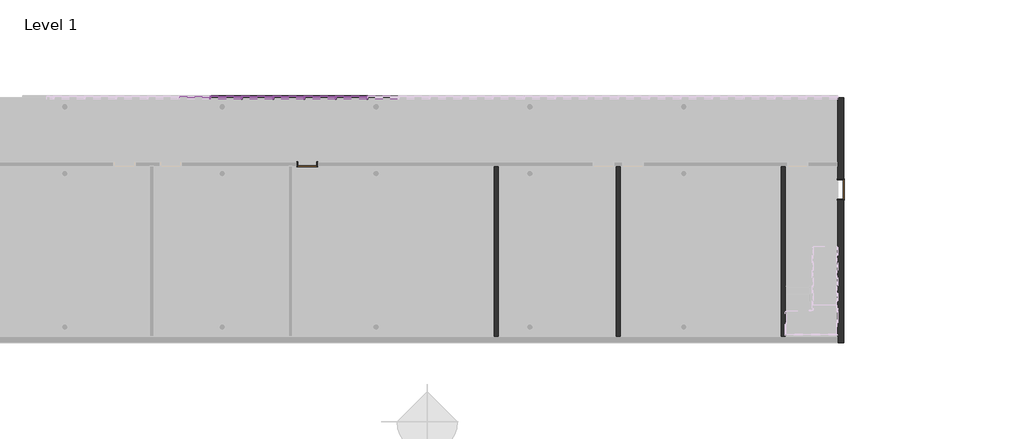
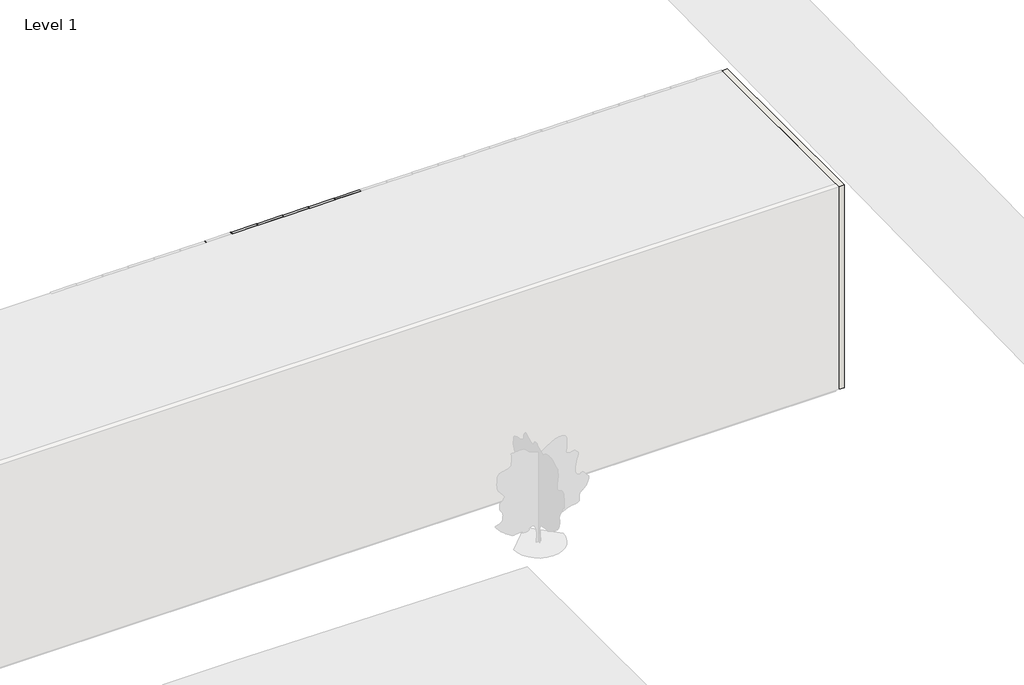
# One storey, part 6 of 23: 84 members, 40 plates, 4 walls, 2 doors.
"""IFC4 building model written with IfcOpenShell, lengths in millimetres."""

from ifc_helpers import new_model, si_unit, origin, origin_with_axes, place, context, project, spatial, polyline, outline, extrude, faceted_brep, transform, mapped, element, save
from components import door_0915mm_x_2134mm_3fa07aa3, door_0915mm_x_2134mm_b19b82af, rectangular_mullion_50mm_x_150mm_5f185edf, rectangular_mullion_50mm_x_150mm_e13fe9f0, rectangular_mullion_50mm_x_150mm_bbc1c4ea, rectangular_mullion_50mm_x_150mm_36202a7c, rectangular_mullion_50mm_x_150mm_84717ec5, system_panel_glazed_65478968, system_panel_glazed_4c130a31, system_panel_solid_368a6b70, system_panel_solid_ece33ae8

model = new_model("IFC4")

# Units and contexts
model_context = context("Model", 3, world=origin())
ifc_project = project(units=[si_unit("LENGTHUNIT", "METRE", prefix="MILLI")], contexts=[model_context])

# Site, building, storey
site = spatial("IfcSite", under=ifc_project)
building = spatial("IfcBuilding", under=site)
storey = spatial("IfcBuildingStorey", under=building, Name="Level 1", Elevation=0.0)

# Doors
placement = place(None, origin())
door_0915mm_x_2134mm_shape = door_0915mm_x_2134mm_3fa07aa3(model_context)
element("IfcDoor", 1, ObjectType="m-doors-hm-f1-a : 0915mm x 2134mm", at=placement, inside=storey, context=model_context, shape_type="MappedRepresentation", body=[
    mapped(door_0915mm_x_2134mm_shape, transform((31461.1968037, -15479.7006057, 0.0), x_axis=(1.0, 0.0, 0.0), y_axis=(0.0, 1.0, 0.0), z_axis=(0.0, 0.0, 1.0))),
])
door_0915mm_x_2134mm_2_shape = door_0915mm_x_2134mm_b19b82af(model_context)
element("IfcDoor", 2, ObjectType="m-doors-hm-f1-a : 0915mm x 2134mm", at=placement, inside=storey, context=model_context, shape_type="MappedRepresentation", body=[
    mapped(door_0915mm_x_2134mm_2_shape, transform((57025.1173382, -16504.7006057, 0.0), x_axis=(0.0, -1.0, 0.0), y_axis=(1.0, 0.0, 0.0), z_axis=(0.0, 0.0, 1.0))),
])

# Members
rectangular_mullion_50mm_x_150mm_shape = rectangular_mullion_50mm_x_150mm_5f185edf(model_context)
element("IfcMember", 3, ObjectType="Rectangular Mullion : 50mm x 150mm", at=placement, inside=storey, context=model_context, shape_type="MappedRepresentation", body=[
    mapped(rectangular_mullion_50mm_x_150mm_shape, transform((34337.0190355, -12132.3615692, 12400.0), x_axis=(0.0, 0.0, 1.0), y_axis=(0.0, 1.0, 0.0), z_axis=(-1.0, 0.0, 0.0))),
])
element("IfcMember", 4, ObjectType="Rectangular Mullion : 50mm x 150mm", at=placement, inside=storey, context=model_context, shape_type="MappedRepresentation", body=[
    mapped(rectangular_mullion_50mm_x_150mm_shape, transform((32844.5458154, -12132.3615692, 12400.0), x_axis=(0.0, 0.0, 1.0), y_axis=(0.0, 1.0, 0.0), z_axis=(-1.0, 0.0, 0.0))),
])
element("IfcMember", 5, ObjectType="Rectangular Mullion : 50mm x 150mm", at=placement, inside=storey, context=model_context, shape_type="MappedRepresentation", body=[
    mapped(rectangular_mullion_50mm_x_150mm_shape, transform((31352.0725952, -12132.3615692, 12400.0), x_axis=(0.0, 0.0, 1.0), y_axis=(0.0, 1.0, 0.0), z_axis=(-1.0, 0.0, 0.0))),
])
element("IfcMember", 6, ObjectType="Rectangular Mullion : 50mm x 150mm", at=placement, inside=storey, context=model_context, shape_type="MappedRepresentation", body=[
    mapped(rectangular_mullion_50mm_x_150mm_shape, transform((29859.599375, -12132.3615692, 12400.0), x_axis=(0.0, 0.0, 1.0), y_axis=(0.0, 1.0, 0.0), z_axis=(-1.0, 0.0, 0.0))),
])
element("IfcMember", 7, ObjectType="Rectangular Mullion : 50mm x 150mm", at=placement, inside=storey, context=model_context, shape_type="MappedRepresentation", body=[
    mapped(rectangular_mullion_50mm_x_150mm_shape, transform((28367.1261549, -12132.3615692, 12400.0), x_axis=(0.0, 0.0, 1.0), y_axis=(0.0, 1.0, 0.0), z_axis=(-1.0, 0.0, 0.0))),
])
element("IfcMember", 8, ObjectType="Rectangular Mullion : 50mm x 150mm", at=placement, inside=storey, context=model_context, shape_type="MappedRepresentation", body=[
    mapped(rectangular_mullion_50mm_x_150mm_shape, transform((34287.0190355, -12132.3615692, 0.0), x_axis=(0.0, 0.0, -1.0), y_axis=(0.0, 1.0, 0.0), z_axis=(1.0, 0.0, 0.0))),
])
element("IfcMember", 9, ObjectType="Rectangular Mullion : 50mm x 150mm", at=placement, inside=storey, context=model_context, shape_type="MappedRepresentation", body=[
    mapped(rectangular_mullion_50mm_x_150mm_shape, transform((32794.5458154, -12132.3615692, 0.0), x_axis=(0.0, 0.0, -1.0), y_axis=(0.0, 1.0, 0.0), z_axis=(1.0, 0.0, 0.0))),
])
element("IfcMember", 10, ObjectType="Rectangular Mullion : 50mm x 150mm", at=placement, inside=storey, context=model_context, shape_type="MappedRepresentation", body=[
    mapped(rectangular_mullion_50mm_x_150mm_shape, transform((31302.0725952, -12132.3615692, 0.0), x_axis=(0.0, 0.0, -1.0), y_axis=(0.0, 1.0, 0.0), z_axis=(1.0, 0.0, 0.0))),
])
element("IfcMember", 11, ObjectType="Rectangular Mullion : 50mm x 150mm", at=placement, inside=storey, context=model_context, shape_type="MappedRepresentation", body=[
    mapped(rectangular_mullion_50mm_x_150mm_shape, transform((29809.599375, -12132.3615692, 0.0), x_axis=(0.0, 0.0, -1.0), y_axis=(0.0, 1.0, 0.0), z_axis=(1.0, 0.0, 0.0))),
])
element("IfcMember", 12, ObjectType="Rectangular Mullion : 50mm x 150mm", at=placement, inside=storey, context=model_context, shape_type="MappedRepresentation", body=[
    mapped(rectangular_mullion_50mm_x_150mm_shape, transform((28317.1261549, -12132.3615692, 0.0), x_axis=(0.0, 0.0, -1.0), y_axis=(0.0, 1.0, 0.0), z_axis=(1.0, 0.0, 0.0))),
])
rectangular_mullion_50mm_x_150mm_2_shape = rectangular_mullion_50mm_x_150mm_e13fe9f0(model_context)
element("IfcMember", 13, ObjectType="Rectangular Mullion : 50mm x 150mm", at=placement, inside=storey, context=model_context, shape_type="MappedRepresentation", body=[
    mapped(rectangular_mullion_50mm_x_150mm_2_shape, transform((34337.0190355, -12132.3615692, 3800.0), x_axis=(0.0, 0.0, 1.0), y_axis=(0.0, 1.0, 0.0), z_axis=(-1.0, 0.0, 0.0))),
])
element("IfcMember", 14, ObjectType="Rectangular Mullion : 50mm x 150mm", at=placement, inside=storey, context=model_context, shape_type="MappedRepresentation", body=[
    mapped(rectangular_mullion_50mm_x_150mm_2_shape, transform((32844.5458154, -12132.3615692, 3800.0), x_axis=(0.0, 0.0, 1.0), y_axis=(0.0, 1.0, 0.0), z_axis=(-1.0, 0.0, 0.0))),
])
element("IfcMember", 15, ObjectType="Rectangular Mullion : 50mm x 150mm", at=placement, inside=storey, context=model_context, shape_type="MappedRepresentation", body=[
    mapped(rectangular_mullion_50mm_x_150mm_2_shape, transform((31352.0725952, -12132.3615692, 3800.0), x_axis=(0.0, 0.0, 1.0), y_axis=(0.0, 1.0, 0.0), z_axis=(-1.0, 0.0, 0.0))),
])
element("IfcMember", 16, ObjectType="Rectangular Mullion : 50mm x 150mm", at=placement, inside=storey, context=model_context, shape_type="MappedRepresentation", body=[
    mapped(rectangular_mullion_50mm_x_150mm_2_shape, transform((29859.599375, -12132.3615692, 3800.0), x_axis=(0.0, 0.0, 1.0), y_axis=(0.0, 1.0, 0.0), z_axis=(-1.0, 0.0, 0.0))),
])
element("IfcMember", 17, ObjectType="Rectangular Mullion : 50mm x 150mm", at=placement, inside=storey, context=model_context, shape_type="MappedRepresentation", body=[
    mapped(rectangular_mullion_50mm_x_150mm_2_shape, transform((28367.1261549, -12132.3615692, 3800.0), x_axis=(0.0, 0.0, 1.0), y_axis=(0.0, 1.0, 0.0), z_axis=(-1.0, 0.0, 0.0))),
])
element("IfcMember", 18, ObjectType="Rectangular Mullion : 50mm x 150mm", at=placement, inside=storey, context=model_context, shape_type="MappedRepresentation", body=[
    mapped(rectangular_mullion_50mm_x_150mm_2_shape, transform((34337.0190355, -12132.3615692, 7600.0), x_axis=(0.0, 0.0, 1.0), y_axis=(0.0, 1.0, 0.0), z_axis=(-1.0, 0.0, 0.0))),
])
element("IfcMember", 19, ObjectType="Rectangular Mullion : 50mm x 150mm", at=placement, inside=storey, context=model_context, shape_type="MappedRepresentation", body=[
    mapped(rectangular_mullion_50mm_x_150mm_2_shape, transform((32844.5458154, -12132.3615692, 7600.0), x_axis=(0.0, 0.0, 1.0), y_axis=(0.0, 1.0, 0.0), z_axis=(-1.0, 0.0, 0.0))),
])
element("IfcMember", 20, ObjectType="Rectangular Mullion : 50mm x 150mm", at=placement, inside=storey, context=model_context, shape_type="MappedRepresentation", body=[
    mapped(rectangular_mullion_50mm_x_150mm_2_shape, transform((31352.0725952, -12132.3615692, 7600.0), x_axis=(0.0, 0.0, 1.0), y_axis=(0.0, 1.0, 0.0), z_axis=(-1.0, 0.0, 0.0))),
])
element("IfcMember", 21, ObjectType="Rectangular Mullion : 50mm x 150mm", at=placement, inside=storey, context=model_context, shape_type="MappedRepresentation", body=[
    mapped(rectangular_mullion_50mm_x_150mm_2_shape, transform((29859.599375, -12132.3615692, 7600.0), x_axis=(0.0, 0.0, 1.0), y_axis=(0.0, 1.0, 0.0), z_axis=(-1.0, 0.0, 0.0))),
])
element("IfcMember", 22, ObjectType="Rectangular Mullion : 50mm x 150mm", at=placement, inside=storey, context=model_context, shape_type="MappedRepresentation", body=[
    mapped(rectangular_mullion_50mm_x_150mm_2_shape, transform((28367.1261549, -12132.3615692, 7600.0), x_axis=(0.0, 0.0, 1.0), y_axis=(0.0, 1.0, 0.0), z_axis=(-1.0, 0.0, 0.0))),
])
element("IfcMember", 23, ObjectType="Rectangular Mullion : 50mm x 150mm", at=placement, inside=storey, context=model_context, shape_type="MappedRepresentation", body=[
    mapped(rectangular_mullion_50mm_x_150mm_2_shape, transform((34337.0190355, -12132.3615692, 11400.0), x_axis=(0.0, 0.0, 1.0), y_axis=(0.0, 1.0, 0.0), z_axis=(-1.0, 0.0, 0.0))),
])
element("IfcMember", 24, ObjectType="Rectangular Mullion : 50mm x 150mm", at=placement, inside=storey, context=model_context, shape_type="MappedRepresentation", body=[
    mapped(rectangular_mullion_50mm_x_150mm_2_shape, transform((32844.5458154, -12132.3615692, 11400.0), x_axis=(0.0, 0.0, 1.0), y_axis=(0.0, 1.0, 0.0), z_axis=(-1.0, 0.0, 0.0))),
])
element("IfcMember", 25, ObjectType="Rectangular Mullion : 50mm x 150mm", at=placement, inside=storey, context=model_context, shape_type="MappedRepresentation", body=[
    mapped(rectangular_mullion_50mm_x_150mm_2_shape, transform((31352.0725952, -12132.3615692, 11400.0), x_axis=(0.0, 0.0, 1.0), y_axis=(0.0, 1.0, 0.0), z_axis=(-1.0, 0.0, 0.0))),
])
element("IfcMember", 26, ObjectType="Rectangular Mullion : 50mm x 150mm", at=placement, inside=storey, context=model_context, shape_type="MappedRepresentation", body=[
    mapped(rectangular_mullion_50mm_x_150mm_2_shape, transform((29859.599375, -12132.3615692, 11400.0), x_axis=(0.0, 0.0, 1.0), y_axis=(0.0, 1.0, 0.0), z_axis=(-1.0, 0.0, 0.0))),
])
element("IfcMember", 27, ObjectType="Rectangular Mullion : 50mm x 150mm", at=placement, inside=storey, context=model_context, shape_type="MappedRepresentation", body=[
    mapped(rectangular_mullion_50mm_x_150mm_2_shape, transform((28367.1261549, -12132.3615692, 11400.0), x_axis=(0.0, 0.0, 1.0), y_axis=(0.0, 1.0, 0.0), z_axis=(-1.0, 0.0, 0.0))),
])
element("IfcMember", 28, ObjectType="Rectangular Mullion : 50mm x 150mm", at=placement, inside=storey, context=model_context, shape_type="MappedRepresentation", body=[
    mapped(rectangular_mullion_50mm_x_150mm_2_shape, transform((34337.0190355, -12132.3615692, 2440.0), x_axis=(0.0, 0.0, 1.0), y_axis=(0.0, 1.0, 0.0), z_axis=(-1.0, 0.0, 0.0))),
])
element("IfcMember", 29, ObjectType="Rectangular Mullion : 50mm x 150mm", at=placement, inside=storey, context=model_context, shape_type="MappedRepresentation", body=[
    mapped(rectangular_mullion_50mm_x_150mm_2_shape, transform((32844.5458154, -12132.3615692, 2440.0), x_axis=(0.0, 0.0, 1.0), y_axis=(0.0, 1.0, 0.0), z_axis=(-1.0, 0.0, 0.0))),
])
element("IfcMember", 30, ObjectType="Rectangular Mullion : 50mm x 150mm", at=placement, inside=storey, context=model_context, shape_type="MappedRepresentation", body=[
    mapped(rectangular_mullion_50mm_x_150mm_2_shape, transform((31352.0725952, -12132.3615692, 2440.0), x_axis=(0.0, 0.0, 1.0), y_axis=(0.0, 1.0, 0.0), z_axis=(-1.0, 0.0, 0.0))),
])
element("IfcMember", 31, ObjectType="Rectangular Mullion : 50mm x 150mm", at=placement, inside=storey, context=model_context, shape_type="MappedRepresentation", body=[
    mapped(rectangular_mullion_50mm_x_150mm_2_shape, transform((29859.599375, -12132.3615692, 2440.0), x_axis=(0.0, 0.0, 1.0), y_axis=(0.0, 1.0, 0.0), z_axis=(-1.0, 0.0, 0.0))),
])
element("IfcMember", 32, ObjectType="Rectangular Mullion : 50mm x 150mm", at=placement, inside=storey, context=model_context, shape_type="MappedRepresentation", body=[
    mapped(rectangular_mullion_50mm_x_150mm_2_shape, transform((28367.1261549, -12132.3615692, 2440.0), x_axis=(0.0, 0.0, 1.0), y_axis=(0.0, 1.0, 0.0), z_axis=(-1.0, 0.0, 0.0))),
])
element("IfcMember", 33, ObjectType="Rectangular Mullion : 50mm x 150mm", at=placement, inside=storey, context=model_context, shape_type="MappedRepresentation", body=[
    mapped(rectangular_mullion_50mm_x_150mm_2_shape, transform((26874.6529347, -12132.3615692, 2440.0), x_axis=(0.0, 0.0, 1.0), y_axis=(0.0, 1.0, 0.0), z_axis=(-1.0, 0.0, 0.0))),
])
element("IfcMember", 34, ObjectType="Rectangular Mullion : 50mm x 150mm", at=placement, inside=storey, context=model_context, shape_type="MappedRepresentation", body=[
    mapped(rectangular_mullion_50mm_x_150mm_2_shape, transform((34337.0190355, -12132.3615692, 6240.0), x_axis=(0.0, 0.0, 1.0), y_axis=(0.0, 1.0, 0.0), z_axis=(-1.0, 0.0, 0.0))),
])
element("IfcMember", 35, ObjectType="Rectangular Mullion : 50mm x 150mm", at=placement, inside=storey, context=model_context, shape_type="MappedRepresentation", body=[
    mapped(rectangular_mullion_50mm_x_150mm_2_shape, transform((32844.5458154, -12132.3615692, 6240.0), x_axis=(0.0, 0.0, 1.0), y_axis=(0.0, 1.0, 0.0), z_axis=(-1.0, 0.0, 0.0))),
])
element("IfcMember", 36, ObjectType="Rectangular Mullion : 50mm x 150mm", at=placement, inside=storey, context=model_context, shape_type="MappedRepresentation", body=[
    mapped(rectangular_mullion_50mm_x_150mm_2_shape, transform((31352.0725952, -12132.3615692, 6240.0), x_axis=(0.0, 0.0, 1.0), y_axis=(0.0, 1.0, 0.0), z_axis=(-1.0, 0.0, 0.0))),
])
element("IfcMember", 37, ObjectType="Rectangular Mullion : 50mm x 150mm", at=placement, inside=storey, context=model_context, shape_type="MappedRepresentation", body=[
    mapped(rectangular_mullion_50mm_x_150mm_2_shape, transform((29859.599375, -12132.3615692, 6240.0), x_axis=(0.0, 0.0, 1.0), y_axis=(0.0, 1.0, 0.0), z_axis=(-1.0, 0.0, 0.0))),
])
element("IfcMember", 38, ObjectType="Rectangular Mullion : 50mm x 150mm", at=placement, inside=storey, context=model_context, shape_type="MappedRepresentation", body=[
    mapped(rectangular_mullion_50mm_x_150mm_2_shape, transform((28367.1261549, -12132.3615692, 6240.0), x_axis=(0.0, 0.0, 1.0), y_axis=(0.0, 1.0, 0.0), z_axis=(-1.0, 0.0, 0.0))),
])
element("IfcMember", 39, ObjectType="Rectangular Mullion : 50mm x 150mm", at=placement, inside=storey, context=model_context, shape_type="MappedRepresentation", body=[
    mapped(rectangular_mullion_50mm_x_150mm_2_shape, transform((26874.6529347, -12132.3615692, 6240.0), x_axis=(0.0, 0.0, 1.0), y_axis=(0.0, 1.0, 0.0), z_axis=(-1.0, 0.0, 0.0))),
])
element("IfcMember", 40, ObjectType="Rectangular Mullion : 50mm x 150mm", at=placement, inside=storey, context=model_context, shape_type="MappedRepresentation", body=[
    mapped(rectangular_mullion_50mm_x_150mm_2_shape, transform((34337.0190355, -12132.3615692, 10040.0), x_axis=(0.0, 0.0, 1.0), y_axis=(0.0, 1.0, 0.0), z_axis=(-1.0, 0.0, 0.0))),
])
element("IfcMember", 41, ObjectType="Rectangular Mullion : 50mm x 150mm", at=placement, inside=storey, context=model_context, shape_type="MappedRepresentation", body=[
    mapped(rectangular_mullion_50mm_x_150mm_2_shape, transform((32844.5458154, -12132.3615692, 10040.0), x_axis=(0.0, 0.0, 1.0), y_axis=(0.0, 1.0, 0.0), z_axis=(-1.0, 0.0, 0.0))),
])
element("IfcMember", 42, ObjectType="Rectangular Mullion : 50mm x 150mm", at=placement, inside=storey, context=model_context, shape_type="MappedRepresentation", body=[
    mapped(rectangular_mullion_50mm_x_150mm_2_shape, transform((31352.0725952, -12132.3615692, 10040.0), x_axis=(0.0, 0.0, 1.0), y_axis=(0.0, 1.0, 0.0), z_axis=(-1.0, 0.0, 0.0))),
])
element("IfcMember", 43, ObjectType="Rectangular Mullion : 50mm x 150mm", at=placement, inside=storey, context=model_context, shape_type="MappedRepresentation", body=[
    mapped(rectangular_mullion_50mm_x_150mm_2_shape, transform((29859.599375, -12132.3615692, 10040.0), x_axis=(0.0, 0.0, 1.0), y_axis=(0.0, 1.0, 0.0), z_axis=(-1.0, 0.0, 0.0))),
])
element("IfcMember", 44, ObjectType="Rectangular Mullion : 50mm x 150mm", at=placement, inside=storey, context=model_context, shape_type="MappedRepresentation", body=[
    mapped(rectangular_mullion_50mm_x_150mm_2_shape, transform((28367.1261549, -12132.3615692, 10040.0), x_axis=(0.0, 0.0, 1.0), y_axis=(0.0, 1.0, 0.0), z_axis=(-1.0, 0.0, 0.0))),
])
element("IfcMember", 45, ObjectType="Rectangular Mullion : 50mm x 150mm", at=placement, inside=storey, context=model_context, shape_type="MappedRepresentation", body=[
    mapped(rectangular_mullion_50mm_x_150mm_2_shape, transform((26874.6529347, -12132.3615692, 10040.0), x_axis=(0.0, 0.0, 1.0), y_axis=(0.0, 1.0, 0.0), z_axis=(-1.0, 0.0, 0.0))),
])
rectangular_mullion_50mm_x_150mm_3_shape = rectangular_mullion_50mm_x_150mm_bbc1c4ea(model_context)
element("IfcMember", 46, ObjectType="Rectangular Mullion : 50mm x 150mm", at=placement, inside=storey, context=model_context, shape_type="MappedRepresentation", body=[
    mapped(rectangular_mullion_50mm_x_150mm_3_shape, transform((34312.0190355, -12132.3615692, 11400.0), x_axis=(-1.0, 0.0, 0.0), y_axis=(0.0, 1.0, 0.0), z_axis=(0.0, 0.0, -1.0))),
])
element("IfcMember", 47, ObjectType="Rectangular Mullion : 50mm x 150mm", at=placement, inside=storey, context=model_context, shape_type="MappedRepresentation", body=[
    mapped(rectangular_mullion_50mm_x_150mm_3_shape, transform((32819.5458154, -12132.3615692, 11400.0), x_axis=(-1.0, 0.0, 0.0), y_axis=(0.0, 1.0, 0.0), z_axis=(0.0, 0.0, -1.0))),
])
element("IfcMember", 48, ObjectType="Rectangular Mullion : 50mm x 150mm", at=placement, inside=storey, context=model_context, shape_type="MappedRepresentation", body=[
    mapped(rectangular_mullion_50mm_x_150mm_3_shape, transform((31327.0725952, -12132.3615692, 11400.0), x_axis=(-1.0, 0.0, 0.0), y_axis=(0.0, 1.0, 0.0), z_axis=(0.0, 0.0, -1.0))),
])
element("IfcMember", 49, ObjectType="Rectangular Mullion : 50mm x 150mm", at=placement, inside=storey, context=model_context, shape_type="MappedRepresentation", body=[
    mapped(rectangular_mullion_50mm_x_150mm_3_shape, transform((29834.599375, -12132.3615692, 11400.0), x_axis=(-1.0, 0.0, 0.0), y_axis=(0.0, 1.0, 0.0), z_axis=(0.0, 0.0, -1.0))),
])
element("IfcMember", 50, ObjectType="Rectangular Mullion : 50mm x 150mm", at=placement, inside=storey, context=model_context, shape_type="MappedRepresentation", body=[
    mapped(rectangular_mullion_50mm_x_150mm_3_shape, transform((28342.1261549, -12132.3615692, 11400.0), x_axis=(-1.0, 0.0, 0.0), y_axis=(0.0, 1.0, 0.0), z_axis=(0.0, 0.0, -1.0))),
])
element("IfcMember", 51, ObjectType="Rectangular Mullion : 50mm x 150mm", at=placement, inside=storey, context=model_context, shape_type="MappedRepresentation", body=[
    mapped(rectangular_mullion_50mm_x_150mm_3_shape, transform((26849.6529347, -12132.3615692, 11400.0), x_axis=(-1.0, 0.0, 0.0), y_axis=(0.0, 1.0, 0.0), z_axis=(0.0, 0.0, -1.0))),
])
rectangular_mullion_50mm_x_150mm_4_shape = rectangular_mullion_50mm_x_150mm_36202a7c(model_context)
element("IfcMember", 52, ObjectType="Rectangular Mullion : 50mm x 150mm", at=placement, inside=storey, context=model_context, shape_type="MappedRepresentation", body=[
    mapped(rectangular_mullion_50mm_x_150mm_4_shape, transform((34312.0190355, -12132.3615692, 0.0), x_axis=(-1.0, 0.0, 0.0), y_axis=(0.0, 1.0, 0.0), z_axis=(0.0, 0.0, -1.0))),
])
element("IfcMember", 53, ObjectType="Rectangular Mullion : 50mm x 150mm", at=placement, inside=storey, context=model_context, shape_type="MappedRepresentation", body=[
    mapped(rectangular_mullion_50mm_x_150mm_4_shape, transform((32819.5458154, -12132.3615692, 0.0), x_axis=(-1.0, 0.0, 0.0), y_axis=(0.0, 1.0, 0.0), z_axis=(0.0, 0.0, -1.0))),
])
element("IfcMember", 54, ObjectType="Rectangular Mullion : 50mm x 150mm", at=placement, inside=storey, context=model_context, shape_type="MappedRepresentation", body=[
    mapped(rectangular_mullion_50mm_x_150mm_4_shape, transform((31327.0725952, -12132.3615692, 0.0), x_axis=(-1.0, 0.0, 0.0), y_axis=(0.0, 1.0, 0.0), z_axis=(0.0, 0.0, -1.0))),
])
element("IfcMember", 55, ObjectType="Rectangular Mullion : 50mm x 150mm", at=placement, inside=storey, context=model_context, shape_type="MappedRepresentation", body=[
    mapped(rectangular_mullion_50mm_x_150mm_4_shape, transform((29834.599375, -12132.3615692, 0.0), x_axis=(-1.0, 0.0, 0.0), y_axis=(0.0, 1.0, 0.0), z_axis=(0.0, 0.0, -1.0))),
])
element("IfcMember", 56, ObjectType="Rectangular Mullion : 50mm x 150mm", at=placement, inside=storey, context=model_context, shape_type="MappedRepresentation", body=[
    mapped(rectangular_mullion_50mm_x_150mm_4_shape, transform((28342.1261549, -12132.3615692, 0.0), x_axis=(-1.0, 0.0, 0.0), y_axis=(0.0, 1.0, 0.0), z_axis=(0.0, 0.0, -1.0))),
])
rectangular_mullion_50mm_x_150mm_5_shape = rectangular_mullion_50mm_x_150mm_84717ec5(model_context)
element("IfcMember", 57, ObjectType="Rectangular Mullion : 50mm x 150mm", at=placement, inside=storey, context=model_context, shape_type="MappedRepresentation", body=[
    mapped(rectangular_mullion_50mm_x_150mm_5_shape, transform((34312.0190355, -12132.3615692, 2440.0), x_axis=(-1.0, 0.0, 0.0), y_axis=(0.0, 1.0, 0.0), z_axis=(0.0, 0.0, -1.0))),
])
element("IfcMember", 58, ObjectType="Rectangular Mullion : 50mm x 150mm", at=placement, inside=storey, context=model_context, shape_type="MappedRepresentation", body=[
    mapped(rectangular_mullion_50mm_x_150mm_5_shape, transform((32819.5458154, -12132.3615692, 2440.0), x_axis=(-1.0, 0.0, 0.0), y_axis=(0.0, 1.0, 0.0), z_axis=(0.0, 0.0, -1.0))),
])
element("IfcMember", 59, ObjectType="Rectangular Mullion : 50mm x 150mm", at=placement, inside=storey, context=model_context, shape_type="MappedRepresentation", body=[
    mapped(rectangular_mullion_50mm_x_150mm_5_shape, transform((31327.0725952, -12132.3615692, 2440.0), x_axis=(-1.0, 0.0, 0.0), y_axis=(0.0, 1.0, 0.0), z_axis=(0.0, 0.0, -1.0))),
])
element("IfcMember", 60, ObjectType="Rectangular Mullion : 50mm x 150mm", at=placement, inside=storey, context=model_context, shape_type="MappedRepresentation", body=[
    mapped(rectangular_mullion_50mm_x_150mm_5_shape, transform((29834.599375, -12132.3615692, 2440.0), x_axis=(-1.0, 0.0, 0.0), y_axis=(0.0, 1.0, 0.0), z_axis=(0.0, 0.0, -1.0))),
])
element("IfcMember", 61, ObjectType="Rectangular Mullion : 50mm x 150mm", at=placement, inside=storey, context=model_context, shape_type="MappedRepresentation", body=[
    mapped(rectangular_mullion_50mm_x_150mm_5_shape, transform((28342.1261549, -12132.3615692, 2440.0), x_axis=(-1.0, 0.0, 0.0), y_axis=(0.0, 1.0, 0.0), z_axis=(0.0, 0.0, -1.0))),
])
element("IfcMember", 62, ObjectType="Rectangular Mullion : 50mm x 150mm", at=placement, inside=storey, context=model_context, shape_type="MappedRepresentation", body=[
    mapped(rectangular_mullion_50mm_x_150mm_5_shape, transform((26849.6529347, -12132.3615692, 2440.0), x_axis=(-1.0, 0.0, 0.0), y_axis=(0.0, 1.0, 0.0), z_axis=(0.0, 0.0, -1.0))),
])
element("IfcMember", 63, ObjectType="Rectangular Mullion : 50mm x 150mm", at=placement, inside=storey, context=model_context, shape_type="MappedRepresentation", body=[
    mapped(rectangular_mullion_50mm_x_150mm_5_shape, transform((34312.0190355, -12132.3615692, 6240.0), x_axis=(-1.0, 0.0, 0.0), y_axis=(0.0, 1.0, 0.0), z_axis=(0.0, 0.0, -1.0))),
])
element("IfcMember", 64, ObjectType="Rectangular Mullion : 50mm x 150mm", at=placement, inside=storey, context=model_context, shape_type="MappedRepresentation", body=[
    mapped(rectangular_mullion_50mm_x_150mm_5_shape, transform((32819.5458154, -12132.3615692, 6240.0), x_axis=(-1.0, 0.0, 0.0), y_axis=(0.0, 1.0, 0.0), z_axis=(0.0, 0.0, -1.0))),
])
element("IfcMember", 65, ObjectType="Rectangular Mullion : 50mm x 150mm", at=placement, inside=storey, context=model_context, shape_type="MappedRepresentation", body=[
    mapped(rectangular_mullion_50mm_x_150mm_5_shape, transform((31327.0725952, -12132.3615692, 6240.0), x_axis=(-1.0, 0.0, 0.0), y_axis=(0.0, 1.0, 0.0), z_axis=(0.0, 0.0, -1.0))),
])
element("IfcMember", 66, ObjectType="Rectangular Mullion : 50mm x 150mm", at=placement, inside=storey, context=model_context, shape_type="MappedRepresentation", body=[
    mapped(rectangular_mullion_50mm_x_150mm_5_shape, transform((29834.599375, -12132.3615692, 6240.0), x_axis=(-1.0, 0.0, 0.0), y_axis=(0.0, 1.0, 0.0), z_axis=(0.0, 0.0, -1.0))),
])
element("IfcMember", 67, ObjectType="Rectangular Mullion : 50mm x 150mm", at=placement, inside=storey, context=model_context, shape_type="MappedRepresentation", body=[
    mapped(rectangular_mullion_50mm_x_150mm_5_shape, transform((28342.1261549, -12132.3615692, 6240.0), x_axis=(-1.0, 0.0, 0.0), y_axis=(0.0, 1.0, 0.0), z_axis=(0.0, 0.0, -1.0))),
])
element("IfcMember", 68, ObjectType="Rectangular Mullion : 50mm x 150mm", at=placement, inside=storey, context=model_context, shape_type="MappedRepresentation", body=[
    mapped(rectangular_mullion_50mm_x_150mm_5_shape, transform((26849.6529347, -12132.3615692, 6240.0), x_axis=(-1.0, 0.0, 0.0), y_axis=(0.0, 1.0, 0.0), z_axis=(0.0, 0.0, -1.0))),
])
element("IfcMember", 69, ObjectType="Rectangular Mullion : 50mm x 150mm", at=placement, inside=storey, context=model_context, shape_type="MappedRepresentation", body=[
    mapped(rectangular_mullion_50mm_x_150mm_5_shape, transform((34312.0190355, -12132.3615692, 10040.0), x_axis=(-1.0, 0.0, 0.0), y_axis=(0.0, 1.0, 0.0), z_axis=(0.0, 0.0, -1.0))),
])
element("IfcMember", 70, ObjectType="Rectangular Mullion : 50mm x 150mm", at=placement, inside=storey, context=model_context, shape_type="MappedRepresentation", body=[
    mapped(rectangular_mullion_50mm_x_150mm_5_shape, transform((32819.5458154, -12132.3615692, 10040.0), x_axis=(-1.0, 0.0, 0.0), y_axis=(0.0, 1.0, 0.0), z_axis=(0.0, 0.0, -1.0))),
])
element("IfcMember", 71, ObjectType="Rectangular Mullion : 50mm x 150mm", at=placement, inside=storey, context=model_context, shape_type="MappedRepresentation", body=[
    mapped(rectangular_mullion_50mm_x_150mm_5_shape, transform((31327.0725952, -12132.3615692, 10040.0), x_axis=(-1.0, 0.0, 0.0), y_axis=(0.0, 1.0, 0.0), z_axis=(0.0, 0.0, -1.0))),
])
element("IfcMember", 72, ObjectType="Rectangular Mullion : 50mm x 150mm", at=placement, inside=storey, context=model_context, shape_type="MappedRepresentation", body=[
    mapped(rectangular_mullion_50mm_x_150mm_5_shape, transform((29834.599375, -12132.3615692, 10040.0), x_axis=(-1.0, 0.0, 0.0), y_axis=(0.0, 1.0, 0.0), z_axis=(0.0, 0.0, -1.0))),
])
element("IfcMember", 73, ObjectType="Rectangular Mullion : 50mm x 150mm", at=placement, inside=storey, context=model_context, shape_type="MappedRepresentation", body=[
    mapped(rectangular_mullion_50mm_x_150mm_5_shape, transform((28342.1261549, -12132.3615692, 10040.0), x_axis=(-1.0, 0.0, 0.0), y_axis=(0.0, 1.0, 0.0), z_axis=(0.0, 0.0, -1.0))),
])
element("IfcMember", 74, ObjectType="Rectangular Mullion : 50mm x 150mm", at=placement, inside=storey, context=model_context, shape_type="MappedRepresentation", body=[
    mapped(rectangular_mullion_50mm_x_150mm_5_shape, transform((26849.6529347, -12132.3615692, 10040.0), x_axis=(-1.0, 0.0, 0.0), y_axis=(0.0, 1.0, 0.0), z_axis=(0.0, 0.0, -1.0))),
])
element("IfcMember", 75, ObjectType="Rectangular Mullion : 50mm x 150mm", at=placement, inside=storey, context=model_context, shape_type="MappedRepresentation", body=[
    mapped(rectangular_mullion_50mm_x_150mm_4_shape, transform((34312.0190355, -12132.3615692, 3800.0), x_axis=(-1.0, 0.0, 0.0), y_axis=(0.0, 1.0, 0.0), z_axis=(0.0, 0.0, -1.0))),
])
element("IfcMember", 76, ObjectType="Rectangular Mullion : 50mm x 150mm", at=placement, inside=storey, context=model_context, shape_type="MappedRepresentation", body=[
    mapped(rectangular_mullion_50mm_x_150mm_4_shape, transform((32819.5458154, -12132.3615692, 3800.0), x_axis=(-1.0, 0.0, 0.0), y_axis=(0.0, 1.0, 0.0), z_axis=(0.0, 0.0, -1.0))),
])
element("IfcMember", 77, ObjectType="Rectangular Mullion : 50mm x 150mm", at=placement, inside=storey, context=model_context, shape_type="MappedRepresentation", body=[
    mapped(rectangular_mullion_50mm_x_150mm_4_shape, transform((31327.0725952, -12132.3615692, 3800.0), x_axis=(-1.0, 0.0, 0.0), y_axis=(0.0, 1.0, 0.0), z_axis=(0.0, 0.0, -1.0))),
])
element("IfcMember", 78, ObjectType="Rectangular Mullion : 50mm x 150mm", at=placement, inside=storey, context=model_context, shape_type="MappedRepresentation", body=[
    mapped(rectangular_mullion_50mm_x_150mm_4_shape, transform((29834.599375, -12132.3615692, 3800.0), x_axis=(-1.0, 0.0, 0.0), y_axis=(0.0, 1.0, 0.0), z_axis=(0.0, 0.0, -1.0))),
])
element("IfcMember", 79, ObjectType="Rectangular Mullion : 50mm x 150mm", at=placement, inside=storey, context=model_context, shape_type="MappedRepresentation", body=[
    mapped(rectangular_mullion_50mm_x_150mm_4_shape, transform((28342.1261549, -12132.3615692, 3800.0), x_axis=(-1.0, 0.0, 0.0), y_axis=(0.0, 1.0, 0.0), z_axis=(0.0, 0.0, -1.0))),
])
element("IfcMember", 80, ObjectType="Rectangular Mullion : 50mm x 150mm", at=placement, inside=storey, context=model_context, shape_type="MappedRepresentation", body=[
    mapped(rectangular_mullion_50mm_x_150mm_4_shape, transform((26849.6529347, -12132.3615692, 3800.0), x_axis=(-1.0, 0.0, 0.0), y_axis=(0.0, 1.0, 0.0), z_axis=(0.0, 0.0, -1.0))),
])
element("IfcMember", 81, ObjectType="Rectangular Mullion : 50mm x 150mm", at=placement, inside=storey, context=model_context, shape_type="MappedRepresentation", body=[
    mapped(rectangular_mullion_50mm_x_150mm_4_shape, transform((34312.0190355, -12132.3615692, 7600.0), x_axis=(-1.0, 0.0, 0.0), y_axis=(0.0, 1.0, 0.0), z_axis=(0.0, 0.0, -1.0))),
])
element("IfcMember", 82, ObjectType="Rectangular Mullion : 50mm x 150mm", at=placement, inside=storey, context=model_context, shape_type="MappedRepresentation", body=[
    mapped(rectangular_mullion_50mm_x_150mm_4_shape, transform((32819.5458154, -12132.3615692, 7600.0), x_axis=(-1.0, 0.0, 0.0), y_axis=(0.0, 1.0, 0.0), z_axis=(0.0, 0.0, -1.0))),
])
element("IfcMember", 83, ObjectType="Rectangular Mullion : 50mm x 150mm", at=placement, inside=storey, context=model_context, shape_type="MappedRepresentation", body=[
    mapped(rectangular_mullion_50mm_x_150mm_4_shape, transform((31327.0725952, -12132.3615692, 7600.0), x_axis=(-1.0, 0.0, 0.0), y_axis=(0.0, 1.0, 0.0), z_axis=(0.0, 0.0, -1.0))),
])
element("IfcMember", 84, ObjectType="Rectangular Mullion : 50mm x 150mm", at=placement, inside=storey, context=model_context, shape_type="MappedRepresentation", body=[
    mapped(rectangular_mullion_50mm_x_150mm_4_shape, transform((29834.599375, -12132.3615692, 7600.0), x_axis=(-1.0, 0.0, 0.0), y_axis=(0.0, 1.0, 0.0), z_axis=(0.0, 0.0, -1.0))),
])
element("IfcMember", 85, ObjectType="Rectangular Mullion : 50mm x 150mm", at=placement, inside=storey, context=model_context, shape_type="MappedRepresentation", body=[
    mapped(rectangular_mullion_50mm_x_150mm_4_shape, transform((28342.1261549, -12132.3615692, 7600.0), x_axis=(-1.0, 0.0, 0.0), y_axis=(0.0, 1.0, 0.0), z_axis=(0.0, 0.0, -1.0))),
])
element("IfcMember", 86, ObjectType="Rectangular Mullion : 50mm x 150mm", at=placement, inside=storey, context=model_context, shape_type="MappedRepresentation", body=[
    mapped(rectangular_mullion_50mm_x_150mm_4_shape, transform((26849.6529347, -12132.3615692, 7600.0), x_axis=(-1.0, 0.0, 0.0), y_axis=(0.0, 1.0, 0.0), z_axis=(0.0, 0.0, -1.0))),
])

# Plates
system_panel_glazed_shape = system_panel_glazed_65478968(model_context)
element("IfcPlate", 87, ObjectType="System Panel : Glazed", at=placement, inside=storey, context=model_context, shape_type="MappedRepresentation", body=[
    mapped(system_panel_glazed_shape, transform((35058.2556456, -12132.3615692, 50.0), x_axis=(-1.0, 0.0, 0.0), y_axis=(0.0, -1.0, 0.0), z_axis=(0.0, 0.0, 1.0))),
])
element("IfcPlate", 88, ObjectType="System Panel : Glazed", at=placement, inside=storey, context=model_context, shape_type="MappedRepresentation", body=[
    mapped(system_panel_glazed_shape, transform((33565.7824254, -12132.3615692, 50.0), x_axis=(-1.0, 0.0, 0.0), y_axis=(0.0, -1.0, 0.0), z_axis=(0.0, 0.0, 1.0))),
])
element("IfcPlate", 89, ObjectType="System Panel : Glazed", at=placement, inside=storey, context=model_context, shape_type="MappedRepresentation", body=[
    mapped(system_panel_glazed_shape, transform((32073.3092053, -12132.3615692, 50.0), x_axis=(-1.0, 0.0, 0.0), y_axis=(0.0, -1.0, 0.0), z_axis=(0.0, 0.0, 1.0))),
])
element("IfcPlate", 90, ObjectType="System Panel : Glazed", at=placement, inside=storey, context=model_context, shape_type="MappedRepresentation", body=[
    mapped(system_panel_glazed_shape, transform((30580.8359851, -12132.3615692, 50.0), x_axis=(-1.0, 0.0, 0.0), y_axis=(0.0, -1.0, 0.0), z_axis=(0.0, 0.0, 1.0))),
])
element("IfcPlate", 91, ObjectType="System Panel : Glazed", at=placement, inside=storey, context=model_context, shape_type="MappedRepresentation", body=[
    mapped(system_panel_glazed_shape, transform((29088.362765, -12132.3615692, 50.0), x_axis=(-1.0, 0.0, 0.0), y_axis=(0.0, -1.0, 0.0), z_axis=(0.0, 0.0, 1.0))),
])
element("IfcPlate", 92, ObjectType="System Panel : Glazed", at=placement, inside=storey, context=model_context, shape_type="MappedRepresentation", body=[
    mapped(system_panel_glazed_shape, transform((27595.8895448, -12132.3615692, 50.0), x_axis=(-1.0, 0.0, 0.0), y_axis=(0.0, -1.0, 0.0), z_axis=(0.0, 0.0, 1.0))),
])
system_panel_glazed_2_shape = system_panel_glazed_4c130a31(model_context)
element("IfcPlate", 93, ObjectType="System Panel : Glazed", at=placement, inside=storey, context=model_context, shape_type="MappedRepresentation", body=[
    mapped(system_panel_glazed_2_shape, transform((35058.2556456, -12132.3615692, 3825.0), x_axis=(-1.0, 0.0, 0.0), y_axis=(0.0, -1.0, 0.0), z_axis=(0.0, 0.0, 1.0))),
])
element("IfcPlate", 94, ObjectType="System Panel : Glazed", at=placement, inside=storey, context=model_context, shape_type="MappedRepresentation", body=[
    mapped(system_panel_glazed_2_shape, transform((33565.7824254, -12132.3615692, 3825.0), x_axis=(-1.0, 0.0, 0.0), y_axis=(0.0, -1.0, 0.0), z_axis=(0.0, 0.0, 1.0))),
])
element("IfcPlate", 95, ObjectType="System Panel : Glazed", at=placement, inside=storey, context=model_context, shape_type="MappedRepresentation", body=[
    mapped(system_panel_glazed_2_shape, transform((32073.3092053, -12132.3615692, 3825.0), x_axis=(-1.0, 0.0, 0.0), y_axis=(0.0, -1.0, 0.0), z_axis=(0.0, 0.0, 1.0))),
])
element("IfcPlate", 96, ObjectType="System Panel : Glazed", at=placement, inside=storey, context=model_context, shape_type="MappedRepresentation", body=[
    mapped(system_panel_glazed_2_shape, transform((30580.8359851, -12132.3615692, 3825.0), x_axis=(-1.0, 0.0, 0.0), y_axis=(0.0, -1.0, 0.0), z_axis=(0.0, 0.0, 1.0))),
])
element("IfcPlate", 97, ObjectType="System Panel : Glazed", at=placement, inside=storey, context=model_context, shape_type="MappedRepresentation", body=[
    mapped(system_panel_glazed_2_shape, transform((29088.362765, -12132.3615692, 3825.0), x_axis=(-1.0, 0.0, 0.0), y_axis=(0.0, -1.0, 0.0), z_axis=(0.0, 0.0, 1.0))),
])
element("IfcPlate", 98, ObjectType="System Panel : Glazed", at=placement, inside=storey, context=model_context, shape_type="MappedRepresentation", body=[
    mapped(system_panel_glazed_2_shape, transform((27595.8895448, -12132.3615692, 3825.0), x_axis=(-1.0, 0.0, 0.0), y_axis=(0.0, -1.0, 0.0), z_axis=(0.0, 0.0, 1.0))),
])
element("IfcPlate", 99, ObjectType="System Panel : Glazed", at=placement, inside=storey, context=model_context, shape_type="MappedRepresentation", body=[
    mapped(system_panel_glazed_2_shape, transform((33565.7824254, -12132.3615692, 7625.0), x_axis=(-1.0, 0.0, 0.0), y_axis=(0.0, -1.0, 0.0), z_axis=(0.0, 0.0, 1.0))),
])
element("IfcPlate", 100, ObjectType="System Panel : Glazed", at=placement, inside=storey, context=model_context, shape_type="MappedRepresentation", body=[
    mapped(system_panel_glazed_2_shape, transform((32073.3092053, -12132.3615692, 7625.0), x_axis=(-1.0, 0.0, 0.0), y_axis=(0.0, -1.0, 0.0), z_axis=(0.0, 0.0, 1.0))),
])
element("IfcPlate", 101, ObjectType="System Panel : Glazed", at=placement, inside=storey, context=model_context, shape_type="MappedRepresentation", body=[
    mapped(system_panel_glazed_2_shape, transform((30580.8359851, -12132.3615692, 7625.0), x_axis=(-1.0, 0.0, 0.0), y_axis=(0.0, -1.0, 0.0), z_axis=(0.0, 0.0, 1.0))),
])
element("IfcPlate", 102, ObjectType="System Panel : Glazed", at=placement, inside=storey, context=model_context, shape_type="MappedRepresentation", body=[
    mapped(system_panel_glazed_2_shape, transform((29088.362765, -12132.3615692, 7625.0), x_axis=(-1.0, 0.0, 0.0), y_axis=(0.0, -1.0, 0.0), z_axis=(0.0, 0.0, 1.0))),
])
element("IfcPlate", 103, ObjectType="System Panel : Glazed", at=placement, inside=storey, context=model_context, shape_type="MappedRepresentation", body=[
    mapped(system_panel_glazed_2_shape, transform((27595.8895448, -12132.3615692, 7625.0), x_axis=(-1.0, 0.0, 0.0), y_axis=(0.0, -1.0, 0.0), z_axis=(0.0, 0.0, 1.0))),
])
system_panel_solid_shape = system_panel_solid_368a6b70(model_context)
element("IfcPlate", 104, ObjectType="System Panel : Solid", at=placement, inside=storey, context=model_context, shape_type="MappedRepresentation", body=[
    mapped(system_panel_solid_shape, transform((33565.7824254, -12132.3615692, 11425.0), x_axis=(-1.0, 0.0, 0.0), y_axis=(0.0, -1.0, 0.0), z_axis=(0.0, 0.0, 1.0))),
])
element("IfcPlate", 105, ObjectType="System Panel : Solid", at=placement, inside=storey, context=model_context, shape_type="MappedRepresentation", body=[
    mapped(system_panel_solid_shape, transform((32073.3092053, -12132.3615692, 11425.0), x_axis=(-1.0, 0.0, 0.0), y_axis=(0.0, -1.0, 0.0), z_axis=(0.0, 0.0, 1.0))),
])
element("IfcPlate", 106, ObjectType="System Panel : Solid", at=placement, inside=storey, context=model_context, shape_type="MappedRepresentation", body=[
    mapped(system_panel_solid_shape, transform((30580.8359851, -12132.3615692, 11425.0), x_axis=(-1.0, 0.0, 0.0), y_axis=(0.0, -1.0, 0.0), z_axis=(0.0, 0.0, 1.0))),
])
element("IfcPlate", 107, ObjectType="System Panel : Solid", at=placement, inside=storey, context=model_context, shape_type="MappedRepresentation", body=[
    mapped(system_panel_solid_shape, transform((29088.362765, -12132.3615692, 11425.0), x_axis=(-1.0, 0.0, 0.0), y_axis=(0.0, -1.0, 0.0), z_axis=(0.0, 0.0, 1.0))),
])
element("IfcPlate", 108, ObjectType="System Panel : Solid", at=placement, inside=storey, context=model_context, shape_type="MappedRepresentation", body=[
    mapped(system_panel_solid_shape, transform((27595.8895448, -12132.3615692, 11425.0), x_axis=(-1.0, 0.0, 0.0), y_axis=(0.0, -1.0, 0.0), z_axis=(0.0, 0.0, 1.0))),
])
system_panel_solid_2_shape = system_panel_solid_ece33ae8(model_context)
element("IfcPlate", 109, ObjectType="System Panel : Solid", at=placement, inside=storey, context=model_context, shape_type="MappedRepresentation", body=[
    mapped(system_panel_solid_2_shape, transform((33565.7824254, -12132.3615692, 2465.0), x_axis=(-1.0, 0.0, 0.0), y_axis=(0.0, -1.0, 0.0), z_axis=(0.0, 0.0, 1.0))),
])
element("IfcPlate", 110, ObjectType="System Panel : Solid", at=placement, inside=storey, context=model_context, shape_type="MappedRepresentation", body=[
    mapped(system_panel_solid_2_shape, transform((32073.3092053, -12132.3615692, 2465.0), x_axis=(-1.0, 0.0, 0.0), y_axis=(0.0, -1.0, 0.0), z_axis=(0.0, 0.0, 1.0))),
])
element("IfcPlate", 111, ObjectType="System Panel : Solid", at=placement, inside=storey, context=model_context, shape_type="MappedRepresentation", body=[
    mapped(system_panel_solid_2_shape, transform((30580.8359851, -12132.3615692, 2465.0), x_axis=(-1.0, 0.0, 0.0), y_axis=(0.0, -1.0, 0.0), z_axis=(0.0, 0.0, 1.0))),
])
element("IfcPlate", 112, ObjectType="System Panel : Solid", at=placement, inside=storey, context=model_context, shape_type="MappedRepresentation", body=[
    mapped(system_panel_solid_2_shape, transform((29088.362765, -12132.3615692, 2465.0), x_axis=(-1.0, 0.0, 0.0), y_axis=(0.0, -1.0, 0.0), z_axis=(0.0, 0.0, 1.0))),
])
element("IfcPlate", 113, ObjectType="System Panel : Solid", at=placement, inside=storey, context=model_context, shape_type="MappedRepresentation", body=[
    mapped(system_panel_solid_2_shape, transform((27595.8895448, -12132.3615692, 2465.0), x_axis=(-1.0, 0.0, 0.0), y_axis=(0.0, -1.0, 0.0), z_axis=(0.0, 0.0, 1.0))),
])
element("IfcPlate", 114, ObjectType="System Panel : Solid", at=placement, inside=storey, context=model_context, shape_type="MappedRepresentation", body=[
    mapped(system_panel_solid_2_shape, transform((26103.4163247, -12132.3615692, 2465.0), x_axis=(-1.0, 0.0, 0.0), y_axis=(0.0, -1.0, 0.0), z_axis=(0.0, 0.0, 1.0))),
])
element("IfcPlate", 115, ObjectType="System Panel : Solid", at=placement, inside=storey, context=model_context, shape_type="MappedRepresentation", body=[
    mapped(system_panel_solid_2_shape, transform((33565.7824254, -12132.3615692, 6265.0), x_axis=(-1.0, 0.0, 0.0), y_axis=(0.0, -1.0, 0.0), z_axis=(0.0, 0.0, 1.0))),
])
element("IfcPlate", 116, ObjectType="System Panel : Solid", at=placement, inside=storey, context=model_context, shape_type="MappedRepresentation", body=[
    mapped(system_panel_solid_2_shape, transform((32073.3092053, -12132.3615692, 6265.0), x_axis=(-1.0, 0.0, 0.0), y_axis=(0.0, -1.0, 0.0), z_axis=(0.0, 0.0, 1.0))),
])
element("IfcPlate", 117, ObjectType="System Panel : Solid", at=placement, inside=storey, context=model_context, shape_type="MappedRepresentation", body=[
    mapped(system_panel_solid_2_shape, transform((30580.8359851, -12132.3615692, 6265.0), x_axis=(-1.0, 0.0, 0.0), y_axis=(0.0, -1.0, 0.0), z_axis=(0.0, 0.0, 1.0))),
])
element("IfcPlate", 118, ObjectType="System Panel : Solid", at=placement, inside=storey, context=model_context, shape_type="MappedRepresentation", body=[
    mapped(system_panel_solid_2_shape, transform((29088.362765, -12132.3615692, 6265.0), x_axis=(-1.0, 0.0, 0.0), y_axis=(0.0, -1.0, 0.0), z_axis=(0.0, 0.0, 1.0))),
])
element("IfcPlate", 119, ObjectType="System Panel : Solid", at=placement, inside=storey, context=model_context, shape_type="MappedRepresentation", body=[
    mapped(system_panel_solid_2_shape, transform((27595.8895448, -12132.3615692, 6265.0), x_axis=(-1.0, 0.0, 0.0), y_axis=(0.0, -1.0, 0.0), z_axis=(0.0, 0.0, 1.0))),
])
element("IfcPlate", 120, ObjectType="System Panel : Solid", at=placement, inside=storey, context=model_context, shape_type="MappedRepresentation", body=[
    mapped(system_panel_solid_2_shape, transform((26103.4163247, -12132.3615692, 6265.0), x_axis=(-1.0, 0.0, 0.0), y_axis=(0.0, -1.0, 0.0), z_axis=(0.0, 0.0, 1.0))),
])
element("IfcPlate", 121, ObjectType="System Panel : Solid", at=placement, inside=storey, context=model_context, shape_type="MappedRepresentation", body=[
    mapped(system_panel_solid_2_shape, transform((33565.7824254, -12132.3615692, 10065.0), x_axis=(-1.0, 0.0, 0.0), y_axis=(0.0, -1.0, 0.0), z_axis=(0.0, 0.0, 1.0))),
])
element("IfcPlate", 122, ObjectType="System Panel : Solid", at=placement, inside=storey, context=model_context, shape_type="MappedRepresentation", body=[
    mapped(system_panel_solid_2_shape, transform((32073.3092053, -12132.3615692, 10065.0), x_axis=(-1.0, 0.0, 0.0), y_axis=(0.0, -1.0, 0.0), z_axis=(0.0, 0.0, 1.0))),
])
element("IfcPlate", 123, ObjectType="System Panel : Solid", at=placement, inside=storey, context=model_context, shape_type="MappedRepresentation", body=[
    mapped(system_panel_solid_2_shape, transform((30580.8359851, -12132.3615692, 10065.0), x_axis=(-1.0, 0.0, 0.0), y_axis=(0.0, -1.0, 0.0), z_axis=(0.0, 0.0, 1.0))),
])
element("IfcPlate", 124, ObjectType="System Panel : Solid", at=placement, inside=storey, context=model_context, shape_type="MappedRepresentation", body=[
    mapped(system_panel_solid_2_shape, transform((29088.362765, -12132.3615692, 10065.0), x_axis=(-1.0, 0.0, 0.0), y_axis=(0.0, -1.0, 0.0), z_axis=(0.0, 0.0, 1.0))),
])
element("IfcPlate", 125, ObjectType="System Panel : Solid", at=placement, inside=storey, context=model_context, shape_type="MappedRepresentation", body=[
    mapped(system_panel_solid_2_shape, transform((27595.8895448, -12132.3615692, 10065.0), x_axis=(-1.0, 0.0, 0.0), y_axis=(0.0, -1.0, 0.0), z_axis=(0.0, 0.0, 1.0))),
])
element("IfcPlate", 126, ObjectType="System Panel : Solid", at=placement, inside=storey, context=model_context, shape_type="MappedRepresentation", body=[
    mapped(system_panel_solid_2_shape, transform((26103.4163247, -12132.3615692, 10065.0), x_axis=(-1.0, 0.0, 0.0), y_axis=(0.0, -1.0, 0.0), z_axis=(0.0, 0.0, 1.0))),
])

# Walls
element("IfcWall", 127, ObjectType="Exterior - EIFS on Mtl Stud", at=placement, inside=storey, context=model_context, shape_type="Brep", body=[
    faceted_brep([(57001.1173382, -12132.3615692, 0.0), (57001.1173382, -12132.3615692, 12400.0), (57001.1173382, -23812.7006057, 12400.0), (57001.1173382, -23812.7006057, 0.0), (57001.1173382, -17012.2006057, 0.0), (57001.1173382, -17012.2006057, 2184.0), (57001.1173382, -15997.2006057, 2184.0), (57001.1173382, -15997.2006057, 0.0), (56699.1173382, -12132.3615692, 12400.0), (56699.1173382, -12132.3615692, 0.0), (56699.1173382, -15212.7006057, 0.0), (56699.1173382, -15396.7006057, 0.0), (56699.1173382, -15997.2006057, 0.0), (56699.1173382, -15997.2006057, 2184.0), (56699.1173382, -17012.2006057, 2184.0), (56699.1173382, -17012.2006057, 0.0), (56699.1173382, -23510.7006057, 0.0), (56699.1173382, -23812.7006057, 0.0), (56699.1173382, -23812.7006057, 12400.0), (56699.1173382, -23510.7006057, 12400.0)], [[[0, 1, 2, 3, 4, 5, 6, 7]], [[8, 9, 10, 11, 12, 13, 14, 15, 16, 17, 18, 19]], [[9, 0, 7, 12, 11, 10]], [[3, 17, 16, 15, 4]], [[1, 0, 9, 8]], [[2, 1, 8, 19, 18]], [[3, 2, 18, 17]], [[14, 5, 4, 15]], [[5, 14, 13, 6]], [[6, 13, 12, 7]]]),
])
element("IfcWall", 128, ObjectType="P28 190mm CMU 2 HR", at=placement, inside=storey, context=model_context, shape_type="SweptSolid", body=[
    extrude(outline(polyline([(54009.1173382, -23510.7006057), (54009.1173382, -15396.7006057), (54199.1173382, -15396.7006057), (54199.1173382, -23510.7006057), (54009.1173382, -23510.7006057)])), origin_with_axes(), (0.0, 0.0, 1.0), 3550.0),
])
element("IfcWall", 129, ObjectType="P4 184mm", at=placement, inside=storey, context=model_context, shape_type="SweptSolid", body=[
    extrude(outline(polyline([(40369.1968037, -23510.7006057), (40369.1968037, -15396.7006057), (40553.1968037, -15396.7006057), (40553.1968037, -23510.7006057), (40369.1968037, -23510.7006057)])), origin_with_axes(), (0.0, 0.0, 1.0), 3550.0),
])
element("IfcWall", 130, ObjectType="P4 184mm", at=placement, inside=storey, context=model_context, shape_type="SweptSolid", body=[
    extrude(outline(polyline([(46169.1968037, -23510.7006057), (46169.1968037, -15396.7006057), (46353.1968037, -15396.7006057), (46353.1968037, -23510.7006057), (46169.1968037, -23510.7006057)])), origin_with_axes(), (0.0, 0.0, 1.0), 3550.0),
])

save(model, "model.ifc")
